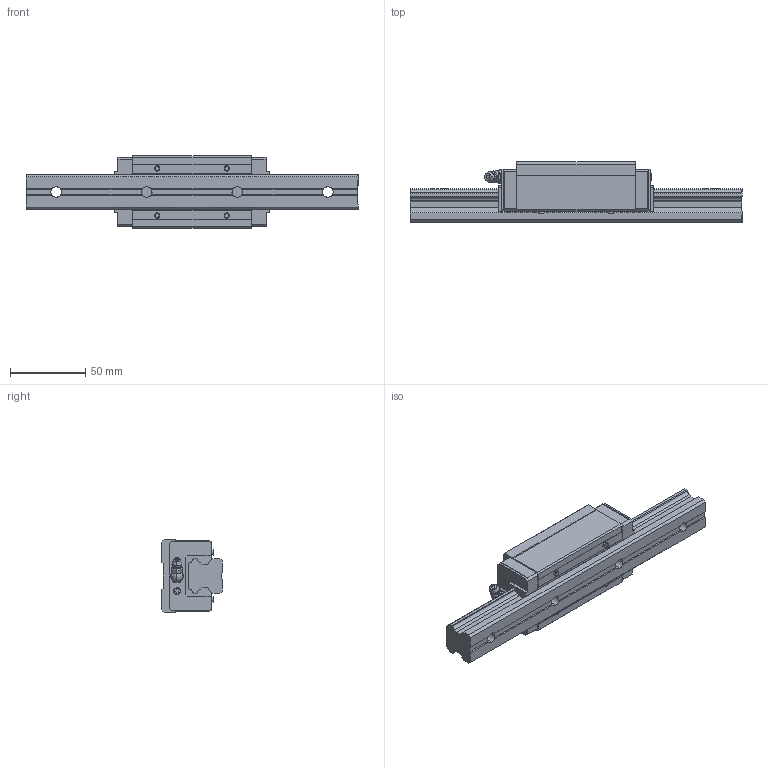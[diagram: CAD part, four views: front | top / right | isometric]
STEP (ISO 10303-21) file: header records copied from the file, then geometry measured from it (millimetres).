
FILE_DESCRIPTION (( 'STEP AP203' ), '1' );
FILE_NAME ('HSR25LRSSC.STEP', '2016-03-29T11:24:27', ( 'EOS' ), ( '' ), 'SwSTEP 2.0', 'SolidWorks 2016', '' );
FILE_SCHEMA (( 'CONFIG_CONTROL_DESIGN' ));
Length unit declared in the file: millimetre
Products named in the file (4): HSR25LRSSC; 3; 2_1; 1
Assembly tree (3 placements, depth 2):
  HSR25LRSSC
    1
    2_1
    3
Bounding box: 220 x 40 x 48 mm (x, y, z)
Volume: 209688.8 mm3; surface area: 46495.5 mm2
Topology: 2 solids, 3 shells, 309 faces, 823 edges, 525 vertices
Faces by surface type: plane 190, cylinder 58, cone 36, bspline 25
Entity records: 10711 total; most frequent: CARTESIAN_POINT 2787, ORIENTED_EDGE 1611, DIRECTION 1512, EDGE_CURVE 807, VECTOR 542, LINE 542, VERTEX_POINT 525, AXIS2_PLACEMENT_3D 485
